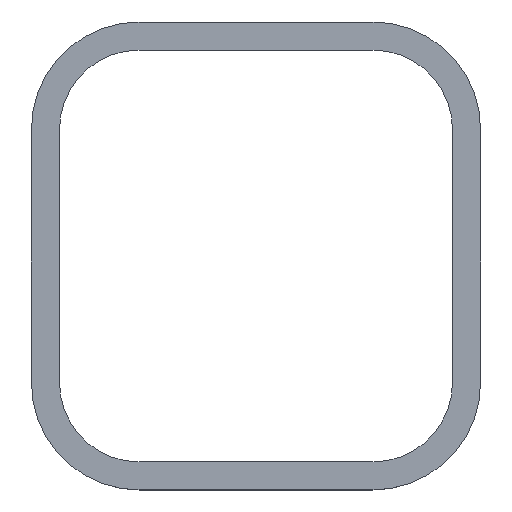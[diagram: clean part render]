
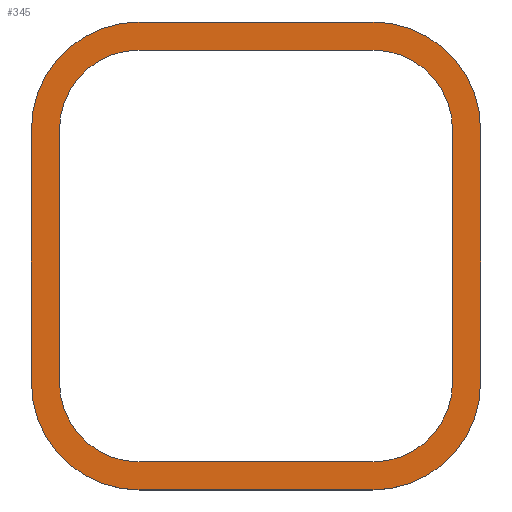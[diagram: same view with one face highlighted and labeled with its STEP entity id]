
A CAD part, top view. The second image highlights one B-rep face of the part: STEP entity #345.
In plain terms, the highlighted planar face has unit normal (0, 0, 1).
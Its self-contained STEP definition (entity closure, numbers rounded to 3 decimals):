
#15=FACE_BOUND('',#76,.T.);
#18=CIRCLE('',#364,8.5);
#20=CIRCLE('',#368,8.5);
#22=CIRCLE('',#372,8.5);
#24=CIRCLE('',#376,8.5);
#26=CIRCLE('',#379,11.5);
#28=CIRCLE('',#383,11.5);
#30=CIRCLE('',#387,11.5);
#32=CIRCLE('',#391,11.5);
#57=FACE_OUTER_BOUND('',#75,.T.);
#75=EDGE_LOOP('',(#287,#288,#289,#290,#291,#292,#293,#294));
#76=EDGE_LOOP('',(#295,#296,#297,#298,#299,#300,#301,#302));
#81=LINE('',#505,#113);
#85=LINE('',#517,#117);
#89=LINE('',#529,#121);
#93=LINE('',#541,#125);
#98=LINE('',#559,#130);
#102=LINE('',#571,#134);
#106=LINE('',#583,#138);
#110=LINE('',#593,#142);
#113=VECTOR('',#401,10.);
#117=VECTOR('',#413,10.);
#121=VECTOR('',#425,10.);
#125=VECTOR('',#437,10.);
#130=VECTOR('',#456,10.);
#134=VECTOR('',#468,10.);
#138=VECTOR('',#480,10.);
#142=VECTOR('',#492,10.);
#145=VERTEX_POINT('',#502);
#146=VERTEX_POINT('',#504);
#148=VERTEX_POINT('',#510);
#150=VERTEX_POINT('',#516);
#152=VERTEX_POINT('',#522);
#154=VERTEX_POINT('',#528);
#156=VERTEX_POINT('',#534);
#158=VERTEX_POINT('',#540);
#161=VERTEX_POINT('',#550);
#162=VERTEX_POINT('',#552);
#164=VERTEX_POINT('',#558);
#166=VERTEX_POINT('',#564);
#168=VERTEX_POINT('',#570);
#170=VERTEX_POINT('',#576);
#172=VERTEX_POINT('',#582);
#174=VERTEX_POINT('',#588);
#177=EDGE_CURVE('',#146,#145,#81,.T.);
#180=EDGE_CURVE('',#148,#146,#18,.T.);
#183=EDGE_CURVE('',#150,#148,#85,.T.);
#186=EDGE_CURVE('',#152,#150,#20,.T.);
#189=EDGE_CURVE('',#154,#152,#89,.T.);
#192=EDGE_CURVE('',#156,#154,#22,.T.);
#195=EDGE_CURVE('',#158,#156,#93,.T.);
#198=EDGE_CURVE('',#145,#158,#24,.T.);
#201=EDGE_CURVE('',#162,#161,#26,.T.);
#204=EDGE_CURVE('',#164,#162,#98,.T.);
#207=EDGE_CURVE('',#166,#164,#28,.T.);
#210=EDGE_CURVE('',#168,#166,#102,.T.);
#213=EDGE_CURVE('',#170,#168,#30,.T.);
#216=EDGE_CURVE('',#172,#170,#106,.T.);
#219=EDGE_CURVE('',#174,#172,#32,.T.);
#222=EDGE_CURVE('',#161,#174,#110,.T.);
#287=ORIENTED_EDGE('',*,*,#222,.T.);
#288=ORIENTED_EDGE('',*,*,#219,.T.);
#289=ORIENTED_EDGE('',*,*,#216,.T.);
#290=ORIENTED_EDGE('',*,*,#213,.T.);
#291=ORIENTED_EDGE('',*,*,#210,.T.);
#292=ORIENTED_EDGE('',*,*,#207,.T.);
#293=ORIENTED_EDGE('',*,*,#204,.T.);
#294=ORIENTED_EDGE('',*,*,#201,.T.);
#295=ORIENTED_EDGE('',*,*,#198,.T.);
#296=ORIENTED_EDGE('',*,*,#195,.T.);
#297=ORIENTED_EDGE('',*,*,#192,.T.);
#298=ORIENTED_EDGE('',*,*,#189,.T.);
#299=ORIENTED_EDGE('',*,*,#186,.T.);
#300=ORIENTED_EDGE('',*,*,#183,.T.);
#301=ORIENTED_EDGE('',*,*,#180,.T.);
#302=ORIENTED_EDGE('',*,*,#177,.T.);
#327=PLANE('',#393);
#345=ADVANCED_FACE('',(#57,#15),#327,.T.);
#364=AXIS2_PLACEMENT_3D('',#511,#407,#408);
#368=AXIS2_PLACEMENT_3D('',#523,#419,#420);
#372=AXIS2_PLACEMENT_3D('',#535,#431,#432);
#376=AXIS2_PLACEMENT_3D('',#545,#443,#444);
#379=AXIS2_PLACEMENT_3D('',#553,#450,#451);
#383=AXIS2_PLACEMENT_3D('',#565,#462,#463);
#387=AXIS2_PLACEMENT_3D('',#577,#474,#475);
#391=AXIS2_PLACEMENT_3D('',#589,#486,#487);
#393=AXIS2_PLACEMENT_3D('',#594,#493,#494);
#401=DIRECTION('',(0.,1.,0.));
#407=DIRECTION('center_axis',(0.,0.,-1.));
#408=DIRECTION('ref_axis',(-1.,0.,0.));
#413=DIRECTION('',(-1.,0.,0.));
#419=DIRECTION('center_axis',(0.,0.,-1.));
#420=DIRECTION('ref_axis',(0.,-1.,0.));
#425=DIRECTION('',(0.,-1.,0.));
#431=DIRECTION('center_axis',(0.,0.,-1.));
#432=DIRECTION('ref_axis',(1.,0.,0.));
#437=DIRECTION('',(1.,0.,0.));
#443=DIRECTION('center_axis',(0.,0.,-1.));
#444=DIRECTION('ref_axis',(0.,1.,0.));
#450=DIRECTION('center_axis',(0.,0.,1.));
#451=DIRECTION('ref_axis',(0.,-1.,0.));
#456=DIRECTION('',(1.,0.,0.));
#462=DIRECTION('center_axis',(0.,0.,1.));
#463=DIRECTION('ref_axis',(-1.,0.,0.));
#468=DIRECTION('',(0.,-1.,0.));
#474=DIRECTION('center_axis',(0.,0.,1.));
#475=DIRECTION('ref_axis',(0.,1.,0.));
#480=DIRECTION('',(-1.,0.,0.));
#486=DIRECTION('center_axis',(0.,0.,1.));
#487=DIRECTION('ref_axis',(1.,0.,0.));
#492=DIRECTION('',(0.,1.,0.));
#493=DIRECTION('center_axis',(0.,0.,1.));
#494=DIRECTION('ref_axis',(1.,0.,0.));
#502=CARTESIAN_POINT('',(-21.,51.,2.95));
#504=CARTESIAN_POINT('',(-21.,24.,2.95));
#505=CARTESIAN_POINT('',(-21.,51.,2.95));
#510=CARTESIAN_POINT('',(-12.5,15.5,2.95));
#511=CARTESIAN_POINT('Origin',(-12.5,24.,2.95));
#516=CARTESIAN_POINT('',(12.5,15.5,2.95));
#517=CARTESIAN_POINT('',(-12.5,15.5,2.95));
#522=CARTESIAN_POINT('',(21.,24.,2.95));
#523=CARTESIAN_POINT('Origin',(12.5,24.,2.95));
#528=CARTESIAN_POINT('',(21.,51.,2.95));
#529=CARTESIAN_POINT('',(21.,24.,2.95));
#534=CARTESIAN_POINT('',(12.5,59.5,2.95));
#535=CARTESIAN_POINT('Origin',(12.5,51.,2.95));
#540=CARTESIAN_POINT('',(-12.5,59.5,2.95));
#541=CARTESIAN_POINT('',(12.5,59.5,2.95));
#545=CARTESIAN_POINT('Origin',(-12.5,51.,2.95));
#550=CARTESIAN_POINT('',(24.,24.,2.95));
#552=CARTESIAN_POINT('',(12.5,12.5,2.95));
#553=CARTESIAN_POINT('Origin',(12.5,24.,2.95));
#558=CARTESIAN_POINT('',(-12.5,12.5,2.95));
#559=CARTESIAN_POINT('',(-12.5,12.5,2.95));
#564=CARTESIAN_POINT('',(-24.,24.,2.95));
#565=CARTESIAN_POINT('Origin',(-12.5,24.,2.95));
#570=CARTESIAN_POINT('',(-24.,51.,2.95));
#571=CARTESIAN_POINT('',(-24.,51.,2.95));
#576=CARTESIAN_POINT('',(-12.5,62.5,2.95));
#577=CARTESIAN_POINT('Origin',(-12.5,51.,2.95));
#582=CARTESIAN_POINT('',(12.5,62.5,2.95));
#583=CARTESIAN_POINT('',(12.5,62.5,2.95));
#588=CARTESIAN_POINT('',(24.,51.,2.95));
#589=CARTESIAN_POINT('Origin',(12.5,51.,2.95));
#593=CARTESIAN_POINT('',(24.,24.,2.95));
#594=CARTESIAN_POINT('Origin',(0.,37.5,2.95));
